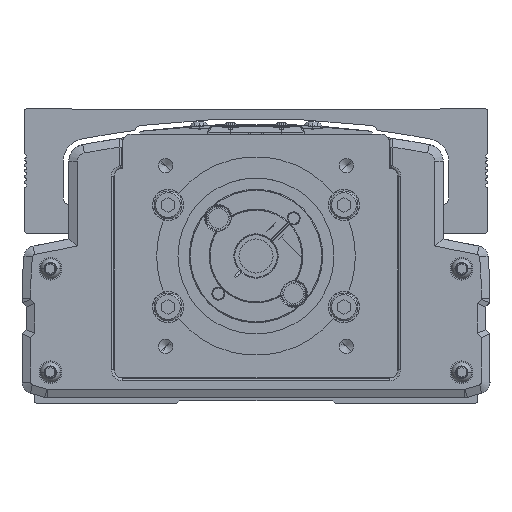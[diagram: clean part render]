
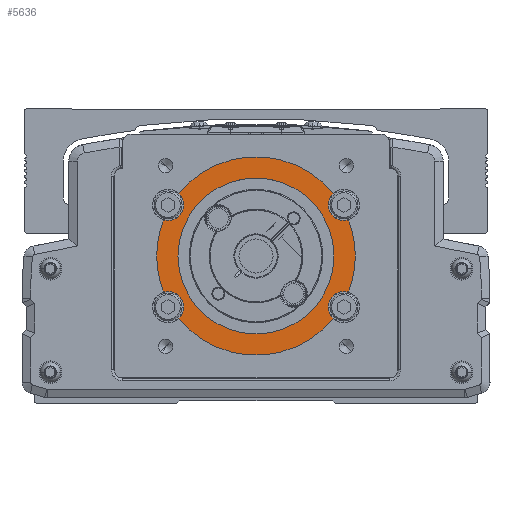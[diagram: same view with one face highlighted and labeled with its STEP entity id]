
A CAD part, front view. The second image highlights one B-rep face of the part: STEP entity #5636.
In plain terms, the highlighted planar face has unit normal (0, -1, 0).
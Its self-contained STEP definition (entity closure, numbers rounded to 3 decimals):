
#5636=ADVANCED_FACE('',(#13031,#13032),#13033,.F.);
#13031=FACE_OUTER_BOUND('',#23189,.T.);
#13032=FACE_BOUND('',#23190,.T.);
#13033=PLANE('',#23191);
#23189=EDGE_LOOP('',(#41667,#41668,#41669,#41670,#41671,#41672,#41673,#41674,#41675,#41676,#41677,#41678,#41679,#41680));
#23190=EDGE_LOOP('',(#41681,#41682));
#23191=AXIS2_PLACEMENT_3D('',#41683,#41684,#41685);
#41667=ORIENTED_EDGE('',*,*,#63914,.F.);
#41668=ORIENTED_EDGE('',*,*,#64861,.T.);
#41669=ORIENTED_EDGE('',*,*,#64862,.T.);
#41670=ORIENTED_EDGE('',*,*,#64297,.F.);
#41671=ORIENTED_EDGE('',*,*,#64863,.F.);
#41672=ORIENTED_EDGE('',*,*,#64864,.T.);
#41673=ORIENTED_EDGE('',*,*,#64865,.F.);
#41674=ORIENTED_EDGE('',*,*,#64160,.F.);
#41675=ORIENTED_EDGE('',*,*,#64866,.T.);
#41676=ORIENTED_EDGE('',*,*,#60375,.T.);
#41677=ORIENTED_EDGE('',*,*,#64309,.F.);
#41678=ORIENTED_EDGE('',*,*,#64867,.F.);
#41679=ORIENTED_EDGE('',*,*,#64124,.T.);
#41680=ORIENTED_EDGE('',*,*,#64868,.F.);
#41681=ORIENTED_EDGE('',*,*,#64869,.F.);
#41682=ORIENTED_EDGE('',*,*,#64870,.F.);
#41683=CARTESIAN_POINT('',(-600.,3.222,0.));
#41684=DIRECTION('',(0.,1.0,0.));
#41685=DIRECTION('',(-1.0,0.,0.));
#60375=EDGE_CURVE('',#72106,#72108,#72110,.T.);
#63914=EDGE_CURVE('',#77981,#77983,#77984,.T.);
#64124=EDGE_CURVE('',#78311,#78309,#78312,.T.);
#64160=EDGE_CURVE('',#78364,#78366,#78367,.T.);
#64297=EDGE_CURVE('',#78569,#78571,#78572,.T.);
#64309=EDGE_CURVE('',#78586,#72108,#78588,.T.);
#64861=EDGE_CURVE('',#77981,#79474,#79475,.T.);
#64862=EDGE_CURVE('',#79474,#78571,#79476,.T.);
#64863=EDGE_CURVE('',#79477,#78569,#79478,.T.);
#64864=EDGE_CURVE('',#79477,#79479,#79480,.T.);
#64865=EDGE_CURVE('',#78366,#79479,#79481,.T.);
#64866=EDGE_CURVE('',#78364,#72106,#79482,.T.);
#64867=EDGE_CURVE('',#78311,#78586,#79483,.T.);
#64868=EDGE_CURVE('',#77983,#78309,#79484,.T.);
#64869=EDGE_CURVE('',#79485,#79486,#79487,.T.);
#64870=EDGE_CURVE('',#79486,#79485,#79488,.T.);
#72106=VERTEX_POINT('',#88824);
#72108=VERTEX_POINT('',#88827);
#72110=CIRCLE('',#88830,35.0);
#77981=VERTEX_POINT('',#97220);
#77983=VERTEX_POINT('',#97223);
#77984=CIRCLE('',#97224,5.5);
#78309=VERTEX_POINT('',#97670);
#78311=VERTEX_POINT('',#97673);
#78312=CIRCLE('',#97674,35.0);
#78364=VERTEX_POINT('',#97741);
#78366=VERTEX_POINT('',#97744);
#78367=CIRCLE('',#97745,5.5);
#78569=VERTEX_POINT('',#98037);
#78571=VERTEX_POINT('',#98040);
#78572=CIRCLE('',#98041,5.5);
#78586=VERTEX_POINT('',#98060);
#78588=CIRCLE('',#98063,5.5);
#79474=VERTEX_POINT('',#99477);
#79475=CIRCLE('',#99478,35.0);
#79476=CIRCLE('',#99479,35.0);
#79477=VERTEX_POINT('',#99480);
#79478=CIRCLE('',#99481,5.5);
#79479=VERTEX_POINT('',#99482);
#79480=CIRCLE('',#99483,35.0);
#79481=CIRCLE('',#99484,5.5);
#79482=CIRCLE('',#99485,35.0);
#79483=CIRCLE('',#99486,5.5);
#79484=CIRCLE('',#99487,5.5);
#79485=VERTEX_POINT('',#99488);
#79486=VERTEX_POINT('',#99489);
#79487=CIRCLE('',#99490,27.5);
#79488=CIRCLE('',#99491,27.5);
#88824=CARTESIAN_POINT('',(-565.,3.222,0.));
#88827=CARTESIAN_POINT('',(-567.4,3.222,12.738));
#88830=AXIS2_PLACEMENT_3D('',#110417,#110418,#110419);
#97220=CARTESIAN_POINT('',(-632.6,3.222,12.738));
#97223=CARTESIAN_POINT('',(-625.5,3.222,18.));
#97224=AXIS2_PLACEMENT_3D('',#115398,#115399,#115400);
#97670=CARTESIAN_POINT('',(-627.223,3.222,21.998));
#97673=CARTESIAN_POINT('',(-572.777,3.222,21.998));
#97674=AXIS2_PLACEMENT_3D('',#115693,#115694,#115695);
#97741=CARTESIAN_POINT('',(-567.4,3.222,-12.738));
#97744=CARTESIAN_POINT('',(-574.5,3.222,-18.));
#97745=AXIS2_PLACEMENT_3D('',#115745,#115746,#115747);
#98037=CARTESIAN_POINT('',(-625.5,3.222,-18.));
#98040=CARTESIAN_POINT('',(-632.6,3.222,-12.738));
#98041=AXIS2_PLACEMENT_3D('',#115921,#115922,#115923);
#98060=CARTESIAN_POINT('',(-574.5,3.222,18.));
#98063=AXIS2_PLACEMENT_3D('',#115936,#115937,#115938);
#99477=CARTESIAN_POINT('',(-635.,3.222,0.));
#99478=AXIS2_PLACEMENT_3D('',#116577,#116578,#116579);
#99479=AXIS2_PLACEMENT_3D('',#116580,#116581,#116582);
#99480=CARTESIAN_POINT('',(-627.223,3.222,-21.998));
#99481=AXIS2_PLACEMENT_3D('',#116583,#116584,#116585);
#99482=CARTESIAN_POINT('',(-572.777,3.222,-21.998));
#99483=AXIS2_PLACEMENT_3D('',#116586,#116587,#116588);
#99484=AXIS2_PLACEMENT_3D('',#116589,#116590,#116591);
#99485=AXIS2_PLACEMENT_3D('',#116592,#116593,#116594);
#99486=AXIS2_PLACEMENT_3D('',#116595,#116596,#116597);
#99487=AXIS2_PLACEMENT_3D('',#116598,#116599,#116600);
#99488=CARTESIAN_POINT('',(-572.5,3.222,0.));
#99489=CARTESIAN_POINT('',(-627.5,3.222,0.));
#99490=AXIS2_PLACEMENT_3D('',#116601,#116602,#116603);
#99491=AXIS2_PLACEMENT_3D('',#116604,#116605,#116606);
#110417=CARTESIAN_POINT('',(-600.,3.222,0.));
#110418=DIRECTION('',(0.,-1.0,0.));
#110419=DIRECTION('',(-1.0,0.,0.));
#115398=CARTESIAN_POINT('',(-631.,3.222,18.));
#115399=DIRECTION('',(0.,-1.0,0.));
#115400=DIRECTION('',(-1.0,0.,0.));
#115693=CARTESIAN_POINT('',(-600.,3.222,0.));
#115694=DIRECTION('',(0.,-1.0,0.));
#115695=DIRECTION('',(-1.0,0.,0.));
#115745=CARTESIAN_POINT('',(-569.,3.222,-18.));
#115746=DIRECTION('',(0.,-1.0,0.));
#115747=DIRECTION('',(1.0,0.,0.));
#115921=CARTESIAN_POINT('',(-631.,3.222,-18.));
#115922=DIRECTION('',(0.,-1.0,0.));
#115923=DIRECTION('',(-1.0,0.,0.));
#115936=CARTESIAN_POINT('',(-569.,3.222,18.));
#115937=DIRECTION('',(0.,-1.0,0.));
#115938=DIRECTION('',(1.0,0.,0.));
#116577=CARTESIAN_POINT('',(-600.,3.222,0.));
#116578=DIRECTION('',(0.,-1.0,0.));
#116579=DIRECTION('',(-1.0,0.,0.));
#116580=CARTESIAN_POINT('',(-600.,3.222,0.));
#116581=DIRECTION('',(0.,-1.0,0.));
#116582=DIRECTION('',(-1.0,0.,0.));
#116583=CARTESIAN_POINT('',(-631.,3.222,-18.));
#116584=DIRECTION('',(0.,-1.0,0.));
#116585=DIRECTION('',(-1.0,0.,0.));
#116586=CARTESIAN_POINT('',(-600.,3.222,0.));
#116587=DIRECTION('',(0.,-1.0,0.));
#116588=DIRECTION('',(-1.0,0.,0.));
#116589=CARTESIAN_POINT('',(-569.,3.222,-18.));
#116590=DIRECTION('',(0.,-1.0,0.));
#116591=DIRECTION('',(1.0,0.,0.));
#116592=CARTESIAN_POINT('',(-600.,3.222,0.));
#116593=DIRECTION('',(0.,-1.0,0.));
#116594=DIRECTION('',(-1.0,0.,0.));
#116595=CARTESIAN_POINT('',(-569.,3.222,18.));
#116596=DIRECTION('',(0.,-1.0,0.));
#116597=DIRECTION('',(1.0,0.,0.));
#116598=CARTESIAN_POINT('',(-631.,3.222,18.));
#116599=DIRECTION('',(0.,-1.0,0.));
#116600=DIRECTION('',(-1.0,0.,0.));
#116601=CARTESIAN_POINT('',(-600.,3.222,0.));
#116602=DIRECTION('',(0.,-1.0,0.));
#116603=DIRECTION('',(-1.0,0.,0.));
#116604=CARTESIAN_POINT('',(-600.,3.222,0.));
#116605=DIRECTION('',(0.,-1.0,0.));
#116606=DIRECTION('',(-1.0,0.,0.));
